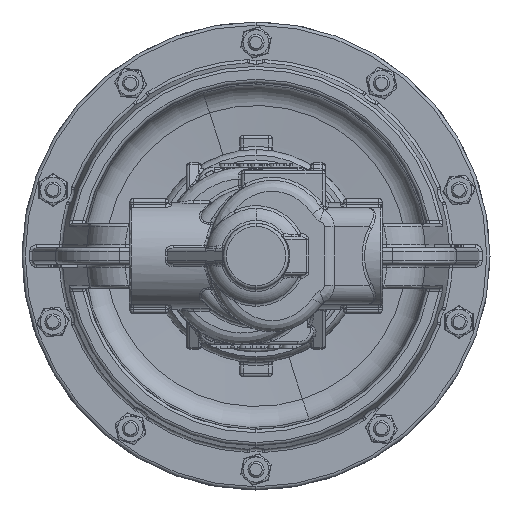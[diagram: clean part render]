
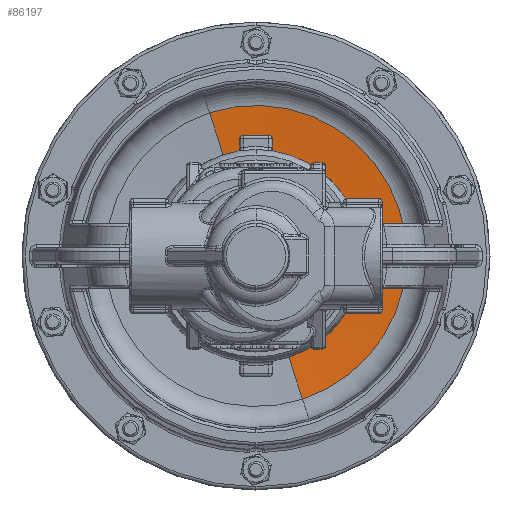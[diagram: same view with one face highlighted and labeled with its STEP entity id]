
A CAD part, front view. The second image highlights one B-rep face of the part: STEP entity #86197.
In plain terms, the highlighted toroidal (fillet/blend) face has major radius 5.756 mm and minor radius 758.429 mm.
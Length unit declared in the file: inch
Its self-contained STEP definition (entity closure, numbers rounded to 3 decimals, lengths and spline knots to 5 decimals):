
#13371 = ORIENTED_EDGE ( 'NONE', *, *, #38875, .F. ) ;
#13373 = ORIENTED_EDGE ( 'NONE', *, *, #38905, .T. ) ;
#13375 = ORIENTED_EDGE ( 'NONE', *, *, #38830, .T. ) ;
#13377 = ORIENTED_EDGE ( 'NONE', *, *, #38906, .F. ) ;
#18345 = CARTESIAN_POINT ( 'NONE',  ( 0., 0.69347, 2.33566 ) ) ;
#18347 = CARTESIAN_POINT ( 'NONE',  ( 0., 0.69347, -2.33566 ) ) ;
#19038 = CARTESIAN_POINT ( 'NONE',  ( 0., 0.79477, 0.5 ) ) ;
#19041 = CARTESIAN_POINT ( 'NONE',  ( 0., 0.79477, -0.5 ) ) ;
#23937 = VERTEX_POINT ( 'NONE', #18345 ) ;
#23938 = VERTEX_POINT ( 'NONE', #18347 ) ;
#24282 = VERTEX_POINT ( 'NONE', #19038 ) ;
#24283 = VERTEX_POINT ( 'NONE', #19041 ) ;
#36364 = EDGE_LOOP ( 'NONE', ( #13371, #13373, #13375, #13377 ) ) ;
#38830 = EDGE_CURVE ( 'NONE', #24283, #24282, #77759, .T. ) ;
#38875 = EDGE_CURVE ( 'NONE', #23938, #23937, #77827, .T. ) ;
#38905 = EDGE_CURVE ( 'NONE', #23938, #24283, #77867, .T. ) ;
#38906 = EDGE_CURVE ( 'NONE', #23937, #24282, #77869, .T. ) ;
#47461 = DIRECTION ( 'NONE',  ( 0., 1., 0. ) ) ;
#47463 = CARTESIAN_POINT ( 'NONE',  ( 0., -29.0558, 0. ) ) ;
#47466 = DIRECTION ( 'NONE',  ( 0., 0., 1. ) ) ;
#51831 = AXIS2_PLACEMENT_3D ( 'NONE', #47463, #47461, #47466 ) ;
#65449 = AXIS2_PLACEMENT_3D ( 'NONE', #81263, #81264, #81265 ) ;
#65473 = AXIS2_PLACEMENT_3D ( 'NONE', #81377, #81378, #81379 ) ;
#65493 = AXIS2_PLACEMENT_3D ( 'NONE', #81457, #81458, #81459 ) ;
#65494 = AXIS2_PLACEMENT_3D ( 'NONE', #81462, #81463, #81464 ) ;
#77759 = CIRCLE ( 'NONE', #65449, 0.5 ) ;
#77827 = CIRCLE ( 'NONE', #65473, 2.33566 ) ;
#77867 = CIRCLE ( 'NONE', #65493, 29.85941 ) ;
#77869 = CIRCLE ( 'NONE', #65494, 29.85941 ) ;
#81263 = CARTESIAN_POINT ( 'NONE',  ( 0., 0.79477, 0. ) ) ;
#81264 = DIRECTION ( 'NONE',  ( 0., 1., 0. ) ) ;
#81265 = DIRECTION ( 'NONE',  ( 0., 0., -1. ) ) ;
#81377 = CARTESIAN_POINT ( 'NONE',  ( 0., 0.69347, 0. ) ) ;
#81378 = DIRECTION ( 'NONE',  ( 0., 1., 0. ) ) ;
#81379 = DIRECTION ( 'NONE',  ( 0., 0., 1. ) ) ;
#81457 = CARTESIAN_POINT ( 'NONE',  ( 0., -29.0558, 0.22661 ) ) ;
#81458 = DIRECTION ( 'NONE',  ( 1., 0., 0. ) ) ;
#81459 = DIRECTION ( 'NONE',  ( 0., 0., -1. ) ) ;
#81462 = CARTESIAN_POINT ( 'NONE',  ( 0., -29.0558, -0.22661 ) ) ;
#81463 = DIRECTION ( 'NONE',  ( -1., 0., 0. ) ) ;
#81464 = DIRECTION ( 'NONE',  ( 0., 0., 1. ) ) ;
#86197 = ADVANCED_FACE ( 'NONE', ( #102506 ), #102531, .F. ) ;
#102506 = FACE_OUTER_BOUND ( 'NONE', #36364, .T. ) ;
#102531 = TOROIDAL_SURFACE ( 'NONE', #51831, -0.22661, 29.85941 ) ;
